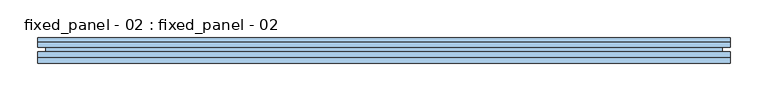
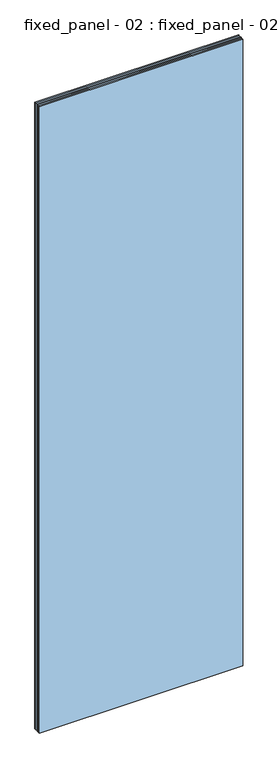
"""IFC4 building model written with IfcOpenShell, lengths in millimetres: window geometry, fixed_panel - 02 : fixed_panel - 02."""

from ifc_helpers import new_model, si_unit, origin, origin_with_axes, place, context, project, spatial, polyline, outline, extrude, faceted_brep, source, transform, mapped, element, save


def fixed_panel_02_fixed_panel_02_342271db(model_context):
    return source(origin(), model_context, "Body", "SolidModel", [
        faceted_brep([(435.5015905, -26.0, 2974.0), (435.5015905, -6.0, 2974.0), (435.5015905, -6.0, 26.0), (435.5015905, -26.0, 26.0), (461.5015905, -6.0, 0.0), (-461.5015905, -6.0, 0.0), (-461.5015905, -6.0, 3000.0), (461.5015905, -6.0, 3000.0), (-435.5015905, -6.0, 2974.0), (-435.5015905, -6.0, 26.0), (-435.5015905, -26.0, 26.0), (461.5015905, -26.0, 3000.0), (-461.5015905, -26.0, 3000.0), (-461.5015905, -26.0, 0.0), (461.5015905, -26.0, 0.0), (-435.5015905, -26.0, 2974.0), (461.5015905, -18.8, 3000.0), (461.5015905, -18.8, 0.0), (-461.5015905, -18.8, 0.0), (-461.5015905, -18.8, 3000.0), (450.5015905, -18.8, 2989.0), (-450.5015905, -18.8, 2989.0), (-450.5015905, -18.8, 11.0), (450.5015905, -18.8, 11.0), (450.5015905, -13.2, 2989.0), (450.5015905, -13.2, 11.0), (-450.5015905, -13.2, 11.0), (461.5015905, -13.2, 3000.0), (-461.5015905, -13.2, 3000.0), (-461.5015905, -13.2, 0.0), (461.5015905, -13.2, 0.0), (-450.5015905, -13.2, 2989.0)], [[[0, 1, 2, 3]], [[4, 5, 6, 7], [1, 8, 9, 2]], [[3, 2, 9, 10]], [[11, 12, 13, 14], [3, 10, 15, 0]], [[16, 11, 14, 17]], [[17, 14, 13, 18]], [[17, 18, 19, 16], [20, 21, 22, 23]], [[24, 20, 23, 25]], [[25, 23, 22, 26]], [[27, 28, 29, 30], [25, 26, 31, 24]], [[7, 27, 30, 4]], [[4, 30, 29, 5]], [[10, 9, 8, 15]], [[18, 13, 12, 19]], [[26, 22, 21, 31]], [[5, 29, 28, 6]], [[15, 8, 1, 0]], [[19, 12, 11, 16]], [[31, 21, 20, 24]], [[6, 28, 27, 7]]]),
        extrude(outline(polyline([(461.5015905, -34.0), (-461.5015905, -34.0), (-461.5015905, -26.0), (461.5015905, -26.0), (461.5015905, -34.0)])), origin_with_axes(), (0.0, 0.0, 1.0), 3000.0),
        extrude(outline(polyline([(461.5015905, -6.0), (-461.5015905, -6.0), (-461.5015905, 0.0), (461.5015905, 0.0), (461.5015905, -6.0)])), origin_with_axes(), (0.0, 0.0, 1.0), 3000.0),
    ])


if __name__ == "__main__":
    model = new_model("IFC4")
    model_context = context("Model", 3, world=origin())
    ifc_project = project(units=[si_unit("LENGTHUNIT", "METRE", prefix="MILLI")], contexts=[model_context])
    site = spatial("IfcSite", under=ifc_project)
    building = spatial("IfcBuilding", under=site)
    placement = place(None, origin())
    fixed_panel_02_fixed_panel_02_shape = fixed_panel_02_fixed_panel_02_342271db(model_context)
    element("IfcWindow", 1, ObjectType="fixed_panel - 02 : fixed_panel - 02", at=placement, inside=building, context=model_context, shape_type="MappedRepresentation", body=[
        mapped(fixed_panel_02_fixed_panel_02_shape, transform((0.0, 0.0, 0.0), x_axis=(1.0, 0.0, 0.0), y_axis=(0.0, 1.0, 0.0), z_axis=(0.0, 0.0, 1.0))),
    ])
    save(model, "model.ifc")
